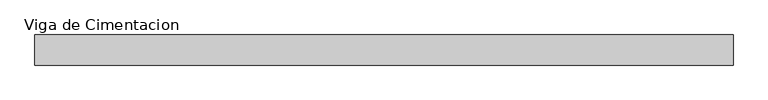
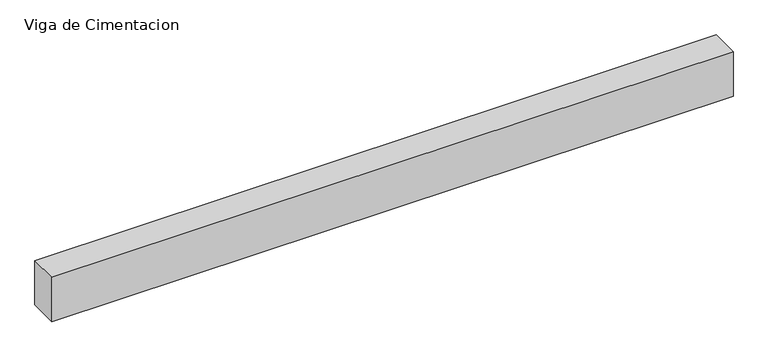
"""IFC4 building model written with IfcOpenShell, lengths in millimetres: beam geometry, Viga de Cimentacion : EVC_Viga de Cimentacion 25x50 cm."""

from ifc_helpers import new_model, si_unit, frame, origin, place, context, project, spatial, polyline, outline, extrude, source, transform, mapped, element, save


def viga_de_cimentacion_bcbc29ee(model_context):
    return source(origin(), model_context, "Body", "SweptSolid", [
        extrude(outline(polyline([(2725.0, 125.0), (2725.0, -125.0), (-3075.0, -125.0), (-3075.0, 125.0), (2725.0, 125.0)])), frame((0.0, 0.0, -400.0), z_axis=(0.0, 0.0, 1.0), x_axis=(1.0, 0.0, 0.0)), (0.0, 0.0, 1.0), 400.0),
    ])


if __name__ == "__main__":
    model = new_model("IFC4")
    model_context = context("Model", 3, world=origin())
    ifc_project = project(units=[si_unit("LENGTHUNIT", "METRE", prefix="MILLI")], contexts=[model_context])
    site = spatial("IfcSite", under=ifc_project)
    building = spatial("IfcBuilding", under=site)
    placement = place(None, origin())
    viga_de_cimentacion_shape = viga_de_cimentacion_bcbc29ee(model_context)
    element("IfcBeam", 1, ObjectType="Viga de Cimentacion : EVC_Viga de Cimentacion 25x50 cm", at=placement, inside=building, context=model_context, shape_type="MappedRepresentation", body=[
        mapped(viga_de_cimentacion_shape, transform((0.0, 0.0, 0.0), x_axis=(1.0, 0.0, 0.0), y_axis=(0.0, 1.0, 0.0), z_axis=(0.0, 0.0, 1.0))),
    ])
    save(model, "model.ifc")
